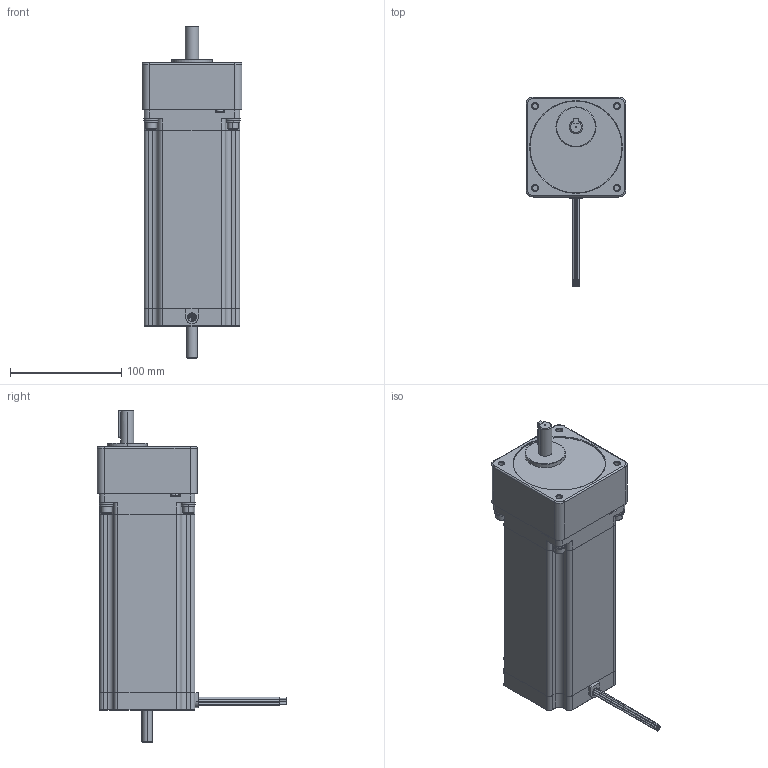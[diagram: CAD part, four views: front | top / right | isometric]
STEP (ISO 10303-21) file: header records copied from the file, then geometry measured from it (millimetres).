
FILE_DESCRIPTION (( 'STEP AP214' ), '1' );
FILE_NAME ('34YSG408D-LW8-R12.5.STEP', '2010-06-18T16:52:05', ( 'Tim Raines' ), ( 'Anaheim Automation' ), 'SwSTEP 2.0', 'SolidWorks 2010', '' );
FILE_SCHEMA (( 'AUTOMOTIVE_DESIGN' ));
Length unit declared in the file: millimetre
Products named in the file (6): Flat Washer Narrow_AM_B18.22M - Plain washer, 6 mm, narrow; Lock Washer Spring Regular_AI_Regular LW 0.25; Socket Head Cap Screw_AM_B18.3.1M - 6 x 1.0 x 20 Hex SHCS -- 20NHX; 34YSG Motor_34YSG408D-LW8; 34YSG408D-LW8-R12.5; 34SG Series_34SG1
Assembly tree (14 placements, depth 2):
  34YSG408D-LW8-R12.5
    Flat Washer Narrow_AM_B18.22M - Plain washer, 6 mm, narrow  x4
    Lock Washer Spring Regular_AI_Regular LW 0.25  x4
    Socket Head Cap Screw_AM_B18.3.1M - 6 x 1.0 x 20 Hex SHCS -- 20NHX  x4
    34SG Series_34SG1
    34YSG Motor_34YSG408D-LW8
Bounding box: 89.92 x 170.43 x 298.53 mm (x, y, z)
Volume: 1642928.9 mm3; surface area: 127487.5 mm2
Topology: 14 solids, 14 shells, 587 faces, 1391 edges, 862 vertices
Faces by surface type: plane 272, cylinder 194, cone 101, torus 20
Entity records: 18773 total; most frequent: CARTESIAN_POINT 2631, DIRECTION 2475, ORIENTED_EDGE 2262, EDGE_CURVE 1131, AXIS2_PLACEMENT_3D 919, VERTEX_POINT 715, LINE 637, VECTOR 637
